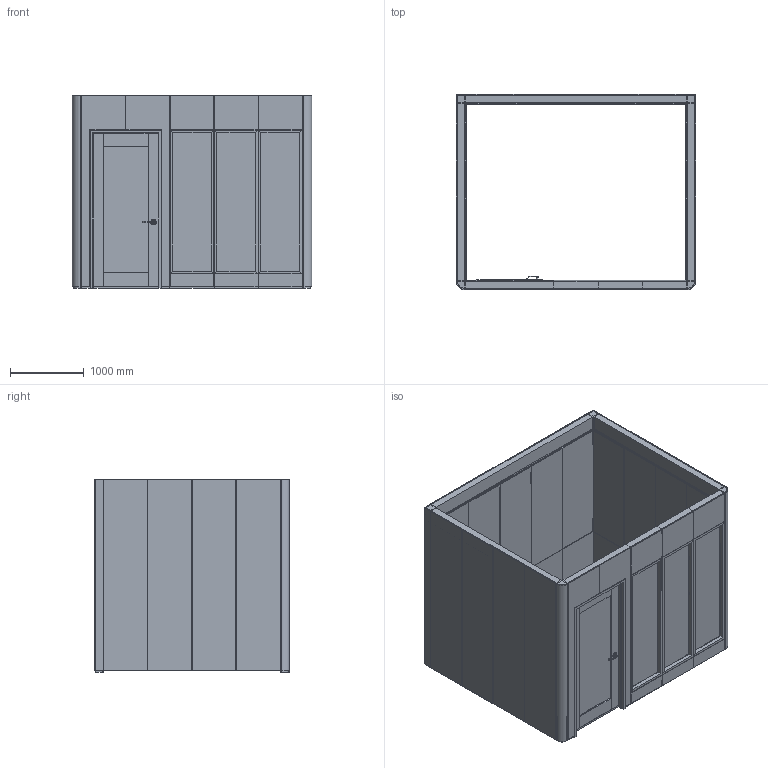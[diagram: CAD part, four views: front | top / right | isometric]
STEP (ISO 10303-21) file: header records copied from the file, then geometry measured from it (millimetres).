
FILE_DESCRIPTION(/* description */ (''),/* implementation_level */ '2;1');
FILE_NAME(/* name */ 'Huddle Two',/* time_stamp */ '2026-06-15T16:28:32+12:00',/* author */ (''),/* organization */ (''),/* preprocessor_version */ 'ST-DEVELOPER v19.2',/* originating_system */ 'Rhino 8.31',/* authorisation */ '');
FILE_SCHEMA (('CONFIG_CONTROL_DESIGN'));
Length unit declared in the file: millimetre
Products named in the file (16): Document; 92x2600mm External Corner Lining; 600x2600mm External Lining; 18mm Packer; CornerPost_2600_92; 600x2400mm Internal Linings - MDF; 600x740mm Internal Linings - Autex; 600x1656mm Internal Linings - Autex; 600x246mm Internal Lining; DoorPanel_1200_2600_92_150_2150; WindowPanel_600_2600_92_600_1950; 600x2600mm External Door Lining; 600x464mm External Lining; 600x178mm External Lining; 600x178mm Internal Lining; 600x2600mm Internal Door Lining
Bounding box: 3252 x 2654 x 2618 mm (x, y, z)
Volume: 1394427970.1 mm3; surface area: 194745903.5 mm2
Topology: 132 solids, 138 shells, 932 faces, 2029 edges, 1371 vertices
Faces by surface type: plane 902, cylinder 22, bspline 8
Entity records: 15473 total; most frequent: CARTESIAN_POINT 4143, ORIENTED_EDGE 2412, EDGE_CURVE 1234, B_SPLINE_CURVE_WITH_KNOTS 1107, DIRECTION 872, VERTEX_POINT 840, AXIS2_PLACEMENT_3D 708, EDGE_LOOP 562
